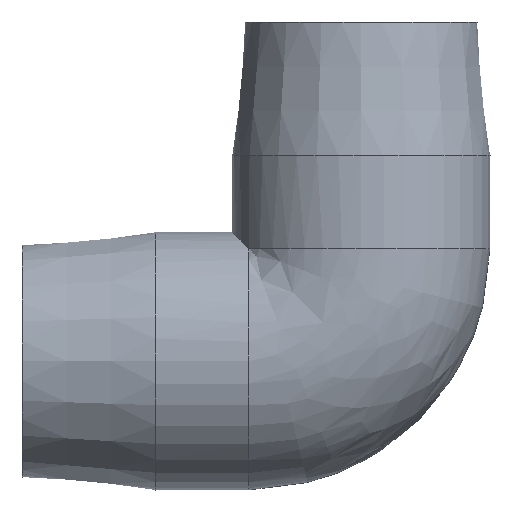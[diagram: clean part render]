
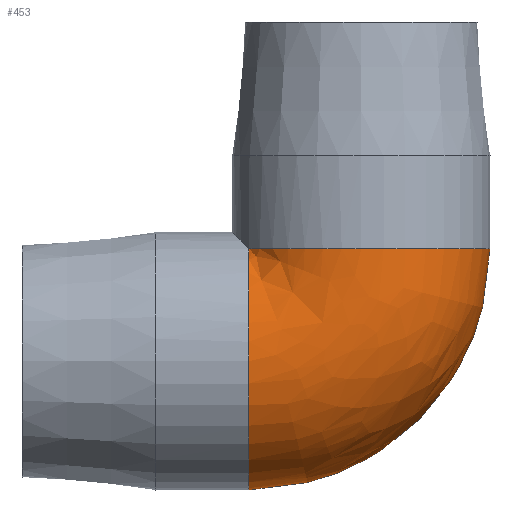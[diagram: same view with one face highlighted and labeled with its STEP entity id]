
A CAD part, front view. The second image highlights one B-rep face of the part: STEP entity #453.
In plain terms, the highlighted free-form (B-spline) face has degree [2, 2] with [9, 3] control points.
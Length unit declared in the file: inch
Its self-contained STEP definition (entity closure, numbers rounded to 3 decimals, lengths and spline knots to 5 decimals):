
#27=(
BOUNDED_SURFACE()
B_SPLINE_SURFACE(2,2,((#763,#764,#765),(#766,#767,#768),(#769,#770,#771),
(#772,#773,#774),(#775,#776,#777),(#778,#779,#780),(#781,#782,#783),(#784,
#785,#786),(#787,#788,#789)),.UNSPECIFIED.,.F.,.F.,.F.)
B_SPLINE_SURFACE_WITH_KNOTS((3,2,2,2,3),(3,3),(-2.6289,-1.31445,
0.,1.31445,2.6289),(0.,1.5708),
 .UNSPECIFIED.)
GEOMETRIC_REPRESENTATION_ITEM()
RATIONAL_B_SPLINE_SURFACE(((1.,0.707,1.),(0.792,
0.56,0.792),(1.,0.707,1.),(0.792,
0.56,0.792),(1.,0.707,1.),(0.792,
0.56,0.792),(1.,0.707,1.),(0.792,
0.56,0.792),(1.,0.707,1.)))
REPRESENTATION_ITEM('')
SURFACE()
);
#88=FACE_OUTER_BOUND('',#120,.T.);
#120=EDGE_LOOP('',(#323,#324,#325,#326));
#164=CIRCLE('',#513,0.875);
#165=CIRCLE('',#514,0.875);
#166=CIRCLE('',#515,0.875);
#167=CIRCLE('',#516,0.875);
#207=VERTEX_POINT('',#790);
#208=VERTEX_POINT('',#791);
#209=VERTEX_POINT('',#793);
#210=VERTEX_POINT('',#795);
#255=EDGE_CURVE('',#207,#208,#164,.T.);
#256=EDGE_CURVE('',#208,#209,#165,.T.);
#257=EDGE_CURVE('',#209,#210,#166,.T.);
#258=EDGE_CURVE('',#210,#207,#167,.T.);
#323=ORIENTED_EDGE('',*,*,#255,.T.);
#324=ORIENTED_EDGE('',*,*,#256,.T.);
#325=ORIENTED_EDGE('',*,*,#257,.T.);
#326=ORIENTED_EDGE('',*,*,#258,.T.);
#453=ADVANCED_FACE('',(#88),#27,.F.);
#513=AXIS2_PLACEMENT_3D('',#792,#606,#607);
#514=AXIS2_PLACEMENT_3D('',#794,#608,#609);
#515=AXIS2_PLACEMENT_3D('',#796,#610,#611);
#516=AXIS2_PLACEMENT_3D('',#797,#612,#613);
#606=DIRECTION('center_axis',(0.,0.,
-1.));
#607=DIRECTION('ref_axis',(-1.,0.,0.));
#608=DIRECTION('center_axis',(0.,0.,
-1.));
#609=DIRECTION('ref_axis',(-1.,0.,0.));
#610=DIRECTION('center_axis',(1.,0.,0.));
#611=DIRECTION('ref_axis',(0.,0.,-1.));
#612=DIRECTION('center_axis',(1.,0.,0.));
#613=DIRECTION('ref_axis',(0.,0.,-1.));
#763=CARTESIAN_POINT('Ctrl Pts',(-0.7625,0.42921,0.7625));
#764=CARTESIAN_POINT('Ctrl Pts',(-0.7625,0.42921,0.7625));
#765=CARTESIAN_POINT('Ctrl Pts',(-0.7625,0.42921,0.7625));
#766=CARTESIAN_POINT('Ctrl Pts',(-0.7625,1.01761,0.43129));
#767=CARTESIAN_POINT('Ctrl Pts',(-0.43129,1.01761,0.43129));
#768=CARTESIAN_POINT('Ctrl Pts',(-0.43129,1.01761,0.7625));
#769=CARTESIAN_POINT('Ctrl Pts',(-0.7625,0.84641,-0.22185));
#770=CARTESIAN_POINT('Ctrl Pts',(0.22185,0.84641,-0.22185));
#771=CARTESIAN_POINT('Ctrl Pts',(0.22185,0.84641,0.7625));
#772=CARTESIAN_POINT('Ctrl Pts',(-0.7625,0.67521,-0.875));
#773=CARTESIAN_POINT('Ctrl Pts',(0.875,0.67521,-0.875));
#774=CARTESIAN_POINT('Ctrl Pts',(0.875,0.67521,0.7625));
#775=CARTESIAN_POINT('Ctrl Pts',(-0.7625,0.,-0.875));
#776=CARTESIAN_POINT('Ctrl Pts',(0.875,0.,-0.875));
#777=CARTESIAN_POINT('Ctrl Pts',(0.875,0.,0.7625));
#778=CARTESIAN_POINT('Ctrl Pts',(-0.7625,-0.67521,
-0.875));
#779=CARTESIAN_POINT('Ctrl Pts',(0.875,-0.67521,-0.875));
#780=CARTESIAN_POINT('Ctrl Pts',(0.875,-0.67521,0.7625));
#781=CARTESIAN_POINT('Ctrl Pts',(-0.7625,-0.84641,-0.22185));
#782=CARTESIAN_POINT('Ctrl Pts',(0.22185,-0.84641,-0.22185));
#783=CARTESIAN_POINT('Ctrl Pts',(0.22185,-0.84641,0.7625));
#784=CARTESIAN_POINT('Ctrl Pts',(-0.7625,-1.01761,0.43129));
#785=CARTESIAN_POINT('Ctrl Pts',(-0.43129,-1.01761,0.43129));
#786=CARTESIAN_POINT('Ctrl Pts',(-0.43129,-1.01761,0.7625));
#787=CARTESIAN_POINT('Ctrl Pts',(-0.7625,-0.42921,
0.7625));
#788=CARTESIAN_POINT('Ctrl Pts',(-0.7625,-0.42921,
0.7625));
#789=CARTESIAN_POINT('Ctrl Pts',(-0.7625,-0.42921,
0.7625));
#790=CARTESIAN_POINT('',(-0.7625,0.42921,0.7625));
#791=CARTESIAN_POINT('',(0.,-0.875,0.7625));
#792=CARTESIAN_POINT('Origin',(0.,0.,
0.7625));
#793=CARTESIAN_POINT('',(-0.7625,-0.42921,0.7625));
#794=CARTESIAN_POINT('Origin',(0.,0.,
0.7625));
#795=CARTESIAN_POINT('',(-0.7625,-0.875,0.));
#796=CARTESIAN_POINT('Origin',(-0.7625,0.,
0.));
#797=CARTESIAN_POINT('Origin',(-0.7625,0.,
0.));
